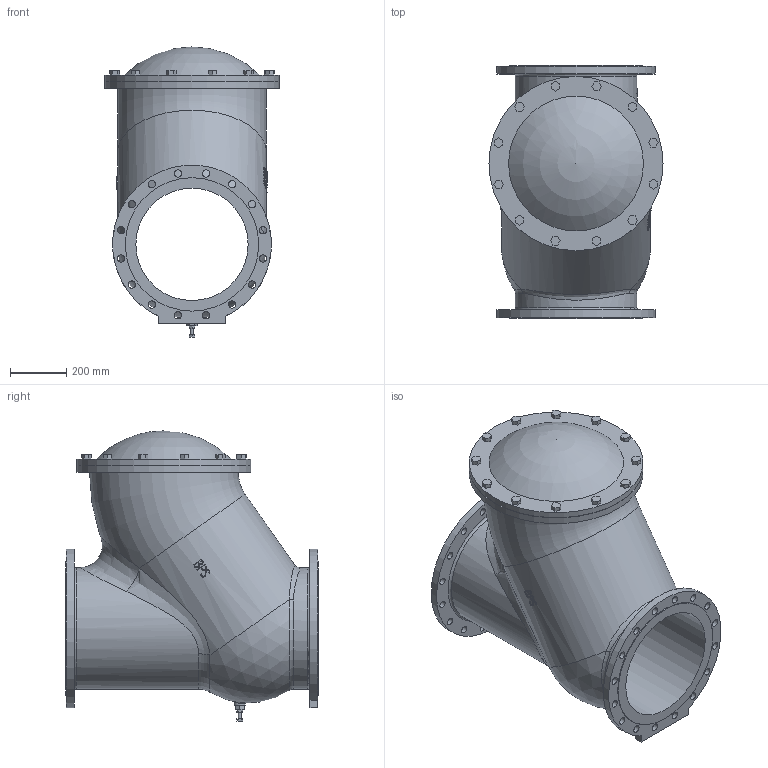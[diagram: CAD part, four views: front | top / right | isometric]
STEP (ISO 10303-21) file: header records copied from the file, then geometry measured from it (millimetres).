
FILE_DESCRIPTION( ( 'Unknown' ), '1' );
FILE_NAME( 'J:/Muud/ROOTSI BPS 3D vidinad/Kuuliga tagasiloogiklapid/STEP formaat/BPS 6538400 ball check valve DN400.stp', 'Unknown', ( 'Unknown' ), ( 'Unknown' ), 'PSStep 10.1', 'Unknown', ' ' );
FILE_SCHEMA( ( 'AUTOMOTIVE_DESIGN { 1 0 10303 214 1 1 1 1 }' ) );
Length unit declared in the file: millimetre
Products named in the file (2): 1; 2
Bounding box: 620 x 900 x 1032.93 mm (x, y, z)
Volume: 155214753.1 mm3; surface area: 4579210.1 mm2
Topology: 2 solids, 2 shells, 377 faces, 970 edges, 658 vertices
Faces by surface type: plane 215, cylinder 96, bspline 59, torus 5, sphere 2
Full cylindrical faces by diameter (mm): 12 x1, 20.752 x1, 22 x24, 26 x32, 40 x1, 400 x1, 432 x2, 475 x2, 565 x1, 620 x2
Entity records: 32339 total; most frequent: CARTESIAN_POINT 21385, ORIENTED_EDGE 1680, DIRECTION 1218, EDGE_CURVE 840, EDGE_LOOP 609, VERTEX_POINT 609, AXIS2_PLACEMENT_3D 469, FACE_OUTER_BOUND 456
